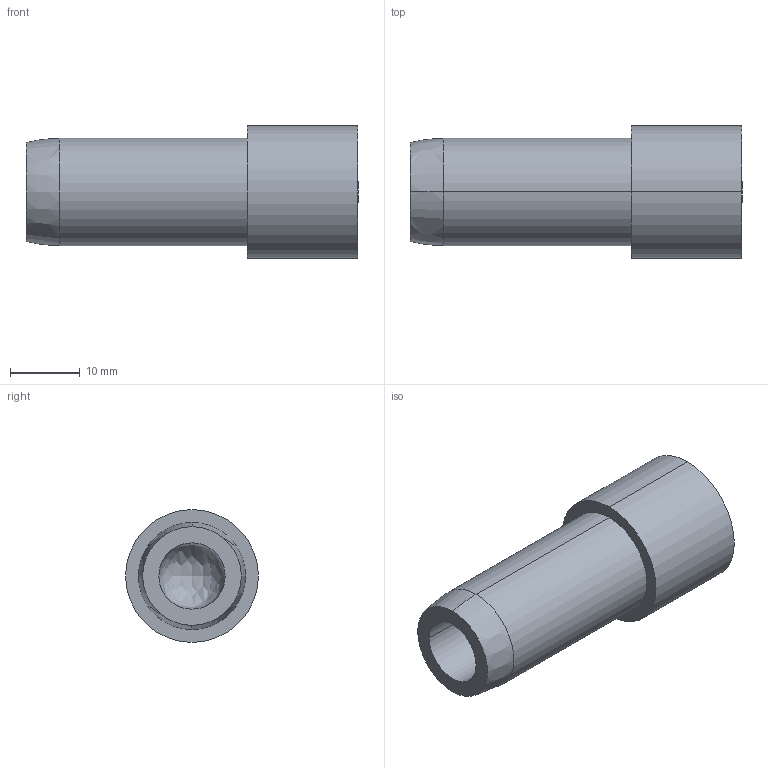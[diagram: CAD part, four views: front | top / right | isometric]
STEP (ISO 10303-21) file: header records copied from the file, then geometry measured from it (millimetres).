
FILE_DESCRIPTION (( 'STEP AP203' ), '1' );
FILE_NAME ('FDPCK-MODCON.625-END-BLNK.step', '2019-09-11T18:37:17', ( 'ydmin' ), ( '' ), 'SwSTEP 2.0', 'SolidWorks 2017', '' );
FILE_SCHEMA (( 'CONFIG_CONTROL_DESIGN' ));
Length unit declared in the file: inch
Products named in the file (1): FDPCK-MODCON.625-END-BLNK
Bounding box: 47.62 x 19.05 x 19.05 mm (x, y, z)
Volume: 8217 mm3; surface area: 3902.1 mm2
Topology: 1 solids, 1 shells, 14 faces, 30 edges, 17 vertices
Faces by surface type: cylinder 6, bspline 3, plane 3, cone 2
Entity records: 472 total; most frequent: CARTESIAN_POINT 103, DIRECTION 68, ORIENTED_EDGE 52, AXIS2_PLACEMENT_3D 30, EDGE_CURVE 26, CIRCLE 18, EDGE_LOOP 17, VERTEX_POINT 17
